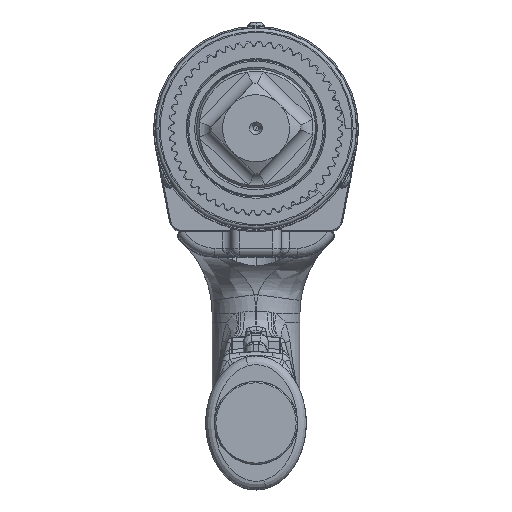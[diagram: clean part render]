
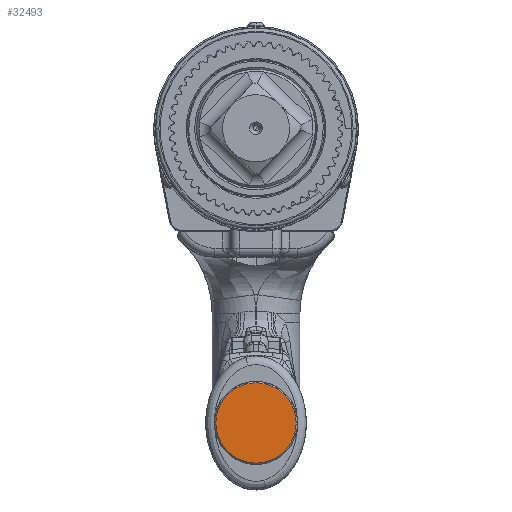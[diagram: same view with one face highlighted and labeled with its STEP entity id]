
A CAD part, top view. The second image highlights one B-rep face of the part: STEP entity #32493.
In plain terms, the highlighted planar face has unit normal (0, 0, 1).
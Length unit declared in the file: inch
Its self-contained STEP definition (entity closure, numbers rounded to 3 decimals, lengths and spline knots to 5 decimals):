
#2782 = DIRECTION ( 'NONE',  ( 0., 0., 1. ) ) ;
#12832 = FACE_OUTER_BOUND ( 'NONE', #82493, .T. ) ;
#14145 = CARTESIAN_POINT ( 'NONE',  ( 0., -4.38938, 2.05527 ) ) ;
#14183 = CARTESIAN_POINT ( 'NONE',  ( 0., -4.38938, 2.05527 ) ) ;
#14850 = DIRECTION ( 'NONE',  ( 1., 0., 0. ) ) ;
#18497 = AXIS2_PLACEMENT_3D ( 'NONE', #14183, #2782, #62427 ) ;
#24814 = DIRECTION ( 'NONE',  ( 0., 0., 1. ) ) ;
#28941 = CIRCLE ( 'NONE', #114341, 0.5995 ) ;
#32493 = ADVANCED_FACE ( 'NONE', ( #12832 ), #105750, .T. ) ;
#40191 = CARTESIAN_POINT ( 'NONE',  ( 0.5995, -4.38938, 2.05527 ) ) ;
#43417 = AXIS2_PLACEMENT_3D ( 'NONE', #14145, #24814, #127734 ) ;
#62427 = DIRECTION ( 'NONE',  ( 1., 0., 0. ) ) ;
#65732 = DIRECTION ( 'NONE',  ( 0., 0., 1. ) ) ;
#66333 = ORIENTED_EDGE ( 'NONE', *, *, #102897, .T. ) ;
#80186 = VERTEX_POINT ( 'NONE', #40191 ) ;
#82493 = EDGE_LOOP ( 'NONE', ( #108883, #66333 ) ) ;
#84468 = CARTESIAN_POINT ( 'NONE',  ( 0., -4.38938, 2.05527 ) ) ;
#93155 = CARTESIAN_POINT ( 'NONE',  ( -0.5995, -4.38938, 2.05527 ) ) ;
#102897 = EDGE_CURVE ( 'NONE', #80186, #112388, #28941, .T. ) ;
#103144 = CIRCLE ( 'NONE', #43417, 0.5995 ) ;
#105750 = PLANE ( 'NONE',  #18497 ) ;
#108883 = ORIENTED_EDGE ( 'NONE', *, *, #129076, .T. ) ;
#112388 = VERTEX_POINT ( 'NONE', #93155 ) ;
#114341 = AXIS2_PLACEMENT_3D ( 'NONE', #84468, #65732, #14850 ) ;
#127734 = DIRECTION ( 'NONE',  ( 1., 0., 0. ) ) ;
#129076 = EDGE_CURVE ( 'NONE', #112388, #80186, #103144, .T. ) ;
